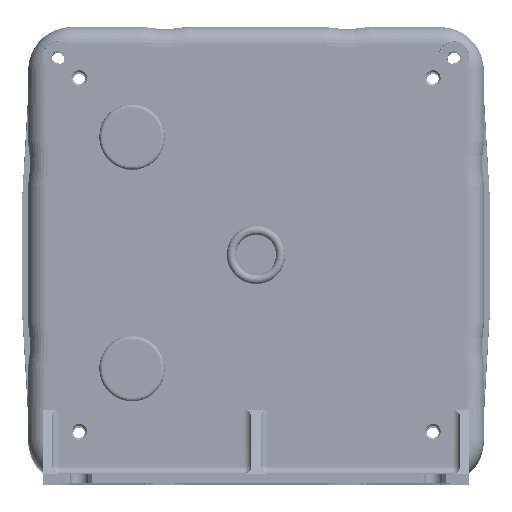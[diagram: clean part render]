
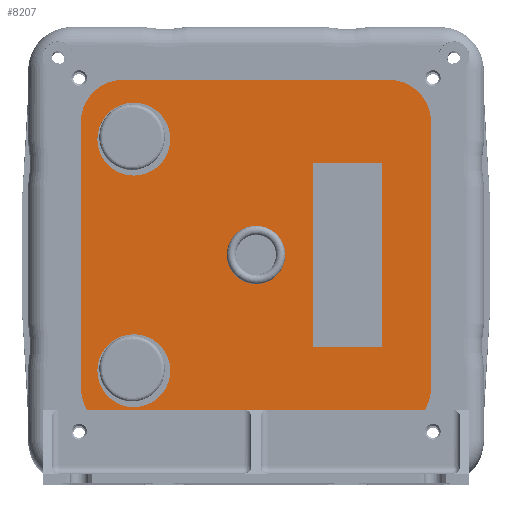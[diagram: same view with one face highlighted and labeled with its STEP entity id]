
A CAD part, top view. The second image highlights one B-rep face of the part: STEP entity #8207.
In plain terms, the highlighted planar face has unit normal (0, 0, 1).
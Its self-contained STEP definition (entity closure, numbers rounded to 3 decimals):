
#8207 = ADVANCED_FACE( '', ( #23378, #23379, #23380, #23381, #23382 ), #23383, .T. );
#23378 = FACE_BOUND( '', #65060, .T. );
#23379 = FACE_BOUND( '', #65061, .T. );
#23380 = FACE_BOUND( '', #65062, .T. );
#23381 = FACE_OUTER_BOUND( '', #65063, .T. );
#23382 = FACE_BOUND( '', #65064, .T. );
#23383 = PLANE( '', #65065 );
#65060 = EDGE_LOOP( '', ( #129353 ) );
#65061 = EDGE_LOOP( '', ( #129354 ) );
#65062 = EDGE_LOOP( '', ( #129355 ) );
#65063 = EDGE_LOOP( '', ( #129356, #129357, #129358, #129359, #129360, #129361, #129362, #129363 ) );
#65064 = EDGE_LOOP( '', ( #129364, #129365, #129366, #129367 ) );
#65065 = AXIS2_PLACEMENT_3D( '', #129368, #129369, #129370 );
#129353 = ORIENTED_EDGE( '', *, *, #168836, .F. );
#129354 = ORIENTED_EDGE( '', *, *, #168815, .F. );
#129355 = ORIENTED_EDGE( '', *, *, #168819, .F. );
#129356 = ORIENTED_EDGE( '', *, *, #167565, .T. );
#129357 = ORIENTED_EDGE( '', *, *, #167567, .T. );
#129358 = ORIENTED_EDGE( '', *, *, #167549, .T. );
#129359 = ORIENTED_EDGE( '', *, *, #167554, .T. );
#129360 = ORIENTED_EDGE( '', *, *, #167557, .T. );
#129361 = ORIENTED_EDGE( '', *, *, #167559, .T. );
#129362 = ORIENTED_EDGE( '', *, *, #167561, .T. );
#129363 = ORIENTED_EDGE( '', *, *, #167563, .T. );
#129364 = ORIENTED_EDGE( '', *, *, #168778, .T. );
#129365 = ORIENTED_EDGE( '', *, *, #168798, .T. );
#129366 = ORIENTED_EDGE( '', *, *, #168795, .T. );
#129367 = ORIENTED_EDGE( '', *, *, #168789, .T. );
#129368 = CARTESIAN_POINT( '', ( 62.497, -111.997, 40. ) );
#129369 = DIRECTION( '', ( 0., 0., 1. ) );
#129370 = DIRECTION( '', ( 1., 0., 0. ) );
#167549 = EDGE_CURVE( '', #203308, #203309, #203310, .T. );
#167554 = EDGE_CURVE( '', #203309, #203315, #203316, .T. );
#167557 = EDGE_CURVE( '', #203315, #203319, #203320, .T. );
#167559 = EDGE_CURVE( '', #203319, #203322, #203323, .T. );
#167561 = EDGE_CURVE( '', #203322, #203325, #203326, .T. );
#167563 = EDGE_CURVE( '', #203325, #203328, #203329, .T. );
#167565 = EDGE_CURVE( '', #203328, #203331, #203332, .T. );
#167567 = EDGE_CURVE( '', #203331, #203308, #203334, .T. );
#168778 = EDGE_CURVE( '', #205453, #205454, #205455, .T. );
#168789 = EDGE_CURVE( '', #205474, #205453, #205475, .T. );
#168795 = EDGE_CURVE( '', #205484, #205474, #205485, .T. );
#168798 = EDGE_CURVE( '', #205454, #205484, #205489, .T. );
#168815 = EDGE_CURVE( '', #205516, #205516, #205517, .T. );
#168819 = EDGE_CURVE( '', #205523, #205523, #205524, .T. );
#168836 = EDGE_CURVE( '', #205543, #205543, #205544, .T. );
#203308 = VERTEX_POINT( '', #269347 );
#203309 = VERTEX_POINT( '', #269348 );
#203310 = LINE( '', #269349, #269350 );
#203315 = VERTEX_POINT( '', #269359 );
#203316 = CIRCLE( '', #269360, 11.5 );
#203319 = VERTEX_POINT( '', #269365 );
#203320 = LINE( '', #269366, #269367 );
#203322 = VERTEX_POINT( '', #269370 );
#203323 = CIRCLE( '', #269371, 11.5 );
#203325 = VERTEX_POINT( '', #269374 );
#203326 = LINE( '', #269375, #269376 );
#203328 = VERTEX_POINT( '', #269379 );
#203329 = CIRCLE( '', #269380, 11.5 );
#203331 = VERTEX_POINT( '', #269383 );
#203332 = LINE( '', #269384, #269385 );
#203334 = CIRCLE( '', #269388, 11.5 );
#205453 = VERTEX_POINT( '', #272931 );
#205454 = VERTEX_POINT( '', #272932 );
#205455 = LINE( '', #272933, #272934 );
#205474 = VERTEX_POINT( '', #272981 );
#205475 = LINE( '', #272982, #272983 );
#205484 = VERTEX_POINT( '', #272997 );
#205485 = LINE( '', #272998, #272999 );
#205489 = LINE( '', #273005, #273006 );
#205516 = VERTEX_POINT( '', #273065 );
#205517 = CIRCLE( '', #273066, 10. );
#205523 = VERTEX_POINT( '', #273075 );
#205524 = CIRCLE( '', #273076, 10. );
#205543 = VERTEX_POINT( '', #273105 );
#205544 = CIRCLE( '', #273106, 8. );
#269347 = CARTESIAN_POINT( '', ( 36.497, -1.497, 40. ) );
#269348 = CARTESIAN_POINT( '', ( -36.503, -1.497, 40. ) );
#269349 = CARTESIAN_POINT( '', ( 36.497, -1.497, 40. ) );
#269350 = VECTOR( '', #317048, 1000. );
#269359 = CARTESIAN_POINT( '', ( -48.003, -12.997, 40. ) );
#269360 = AXIS2_PLACEMENT_3D( '', #317053, #317054, #317055 );
#269365 = CARTESIAN_POINT( '', ( -48.003, -85.997, 40. ) );
#269366 = CARTESIAN_POINT( '', ( -48.003, -12.997, 40. ) );
#269367 = VECTOR( '', #317058, 1000. );
#269370 = CARTESIAN_POINT( '', ( -36.503, -97.497, 40. ) );
#269371 = AXIS2_PLACEMENT_3D( '', #317060, #317061, #317062 );
#269374 = CARTESIAN_POINT( '', ( 36.497, -97.497, 40. ) );
#269375 = CARTESIAN_POINT( '', ( -36.503, -97.497, 40. ) );
#269376 = VECTOR( '', #317064, 1000. );
#269379 = CARTESIAN_POINT( '', ( 47.997, -85.997, 40. ) );
#269380 = AXIS2_PLACEMENT_3D( '', #317066, #317067, #317068 );
#269383 = CARTESIAN_POINT( '', ( 47.997, -12.997, 40. ) );
#269384 = CARTESIAN_POINT( '', ( 47.997, -85.997, 40. ) );
#269385 = VECTOR( '', #317070, 1000. );
#269388 = AXIS2_PLACEMENT_3D( '', #317072, #317073, #317074 );
#272931 = CARTESIAN_POINT( '', ( 34.447, -24.252, 40. ) );
#272932 = CARTESIAN_POINT( '', ( 34.447, -74.742, 40. ) );
#272933 = CARTESIAN_POINT( '', ( 34.447, -24.252, 40. ) );
#272934 = VECTOR( '', #318669, 1000. );
#272981 = CARTESIAN_POINT( '', ( 15.547, -24.252, 40. ) );
#272982 = CARTESIAN_POINT( '', ( 15.547, -24.252, 40. ) );
#272983 = VECTOR( '', #318678, 1000. );
#272997 = CARTESIAN_POINT( '', ( 15.547, -74.742, 40. ) );
#272998 = CARTESIAN_POINT( '', ( 15.547, -74.742, 40. ) );
#272999 = VECTOR( '', #318684, 1000. );
#273005 = CARTESIAN_POINT( '', ( 34.447, -74.742, 40. ) );
#273006 = VECTOR( '', #318687, 1000. );
#273065 = CARTESIAN_POINT( '', ( -23.503, -81.247, 40. ) );
#273066 = AXIS2_PLACEMENT_3D( '', #318706, #318707, #318708 );
#273075 = CARTESIAN_POINT( '', ( -23.503, -17.747, 40. ) );
#273076 = AXIS2_PLACEMENT_3D( '', #318712, #318713, #318714 );
#273105 = CARTESIAN_POINT( '', ( -8.003, -49.497, 40. ) );
#273106 = AXIS2_PLACEMENT_3D( '', #318743, #318744, #318745 );
#317048 = DIRECTION( '', ( -1., 0., 0. ) );
#317053 = CARTESIAN_POINT( '', ( -36.503, -12.997, 40. ) );
#317054 = DIRECTION( '', ( 0., 0., 1. ) );
#317055 = DIRECTION( '', ( 0., 1., 0. ) );
#317058 = DIRECTION( '', ( 0., -1., 0. ) );
#317060 = CARTESIAN_POINT( '', ( -36.503, -85.997, 40. ) );
#317061 = DIRECTION( '', ( 0., 0., 1. ) );
#317062 = DIRECTION( '', ( -1., 0., 0. ) );
#317064 = DIRECTION( '', ( 1., 0., 0. ) );
#317066 = CARTESIAN_POINT( '', ( 36.497, -85.997, 40. ) );
#317067 = DIRECTION( '', ( 0., 0., 1. ) );
#317068 = DIRECTION( '', ( 0., -1., 0. ) );
#317070 = DIRECTION( '', ( 0., 1., 0. ) );
#317072 = CARTESIAN_POINT( '', ( 36.497, -12.997, 40. ) );
#317073 = DIRECTION( '', ( 0., 0., 1. ) );
#317074 = DIRECTION( '', ( 1., 0., 0. ) );
#318669 = DIRECTION( '', ( 0., -1., 0. ) );
#318678 = DIRECTION( '', ( 1., 0., 0. ) );
#318684 = DIRECTION( '', ( 0., 1., 0. ) );
#318687 = DIRECTION( '', ( -1., 0., 0. ) );
#318706 = CARTESIAN_POINT( '', ( -33.503, -81.247, 40. ) );
#318707 = DIRECTION( '', ( 0., 0., 1. ) );
#318708 = DIRECTION( '', ( 1., 0., 0. ) );
#318712 = CARTESIAN_POINT( '', ( -33.503, -17.747, 40. ) );
#318713 = DIRECTION( '', ( 0., 0., 1. ) );
#318714 = DIRECTION( '', ( 1., 0., 0. ) );
#318743 = CARTESIAN_POINT( '', ( -0.003, -49.497, 40. ) );
#318744 = DIRECTION( '', ( 0., 0., 1. ) );
#318745 = DIRECTION( '', ( -1., 0., 0. ) );
